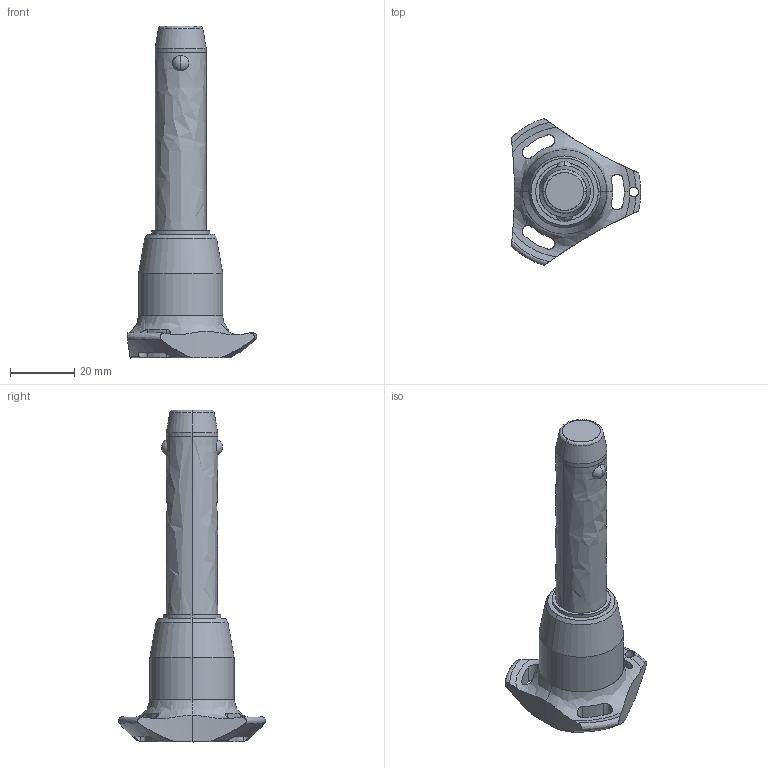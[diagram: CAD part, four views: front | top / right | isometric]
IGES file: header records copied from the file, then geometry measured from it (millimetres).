
Start section: SolidWorks IGES file using analytic representation for surfaces
Global section: file name: C:\Users\ianosborn\Desktop\QR1736_v2\QR1736_v2_20251115_IGES\QR1736.M16-050-T.igs; native system: SolidWorks 2019; preprocessor: SolidWorks 2019; author: IanOsborn; date: 251113.120654; units: millimetre
Bounding box: 40.5 x 45.88 x 103.7 mm (x, y, z)
Surface area: 9172.2 mm2 (no closed solid volume)
Topology: 0 solids, 0 shells, 68 faces, 1451 edges, 1447 vertices
Faces by surface type: revolution 52, bspline 16
